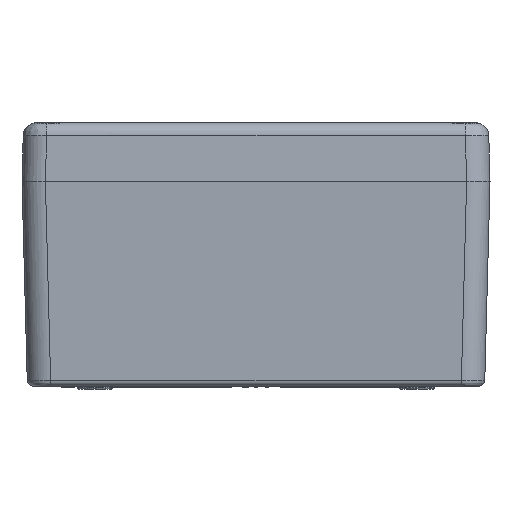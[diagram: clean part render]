
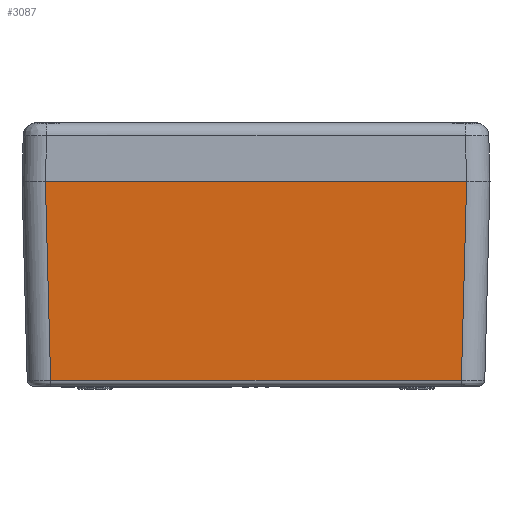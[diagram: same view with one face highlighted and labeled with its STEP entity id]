
A CAD part, left-side view. The second image highlights one B-rep face of the part: STEP entity #3087.
In plain terms, the highlighted planar face has unit normal (-1, 0, -0.026).
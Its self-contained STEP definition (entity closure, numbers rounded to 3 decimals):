
#3087=ADVANCED_FACE('',(#4880),#4089,.T.);
#4089=PLANE('',#21128);
#4880=FACE_OUTER_BOUND('',#5966,.T.);
#5966=EDGE_LOOP('',(#9414,#9415,#9416,#9417));
#9414=ORIENTED_EDGE('',*,*,#15739,.T.);
#9415=ORIENTED_EDGE('',*,*,#16085,.T.);
#9416=ORIENTED_EDGE('',*,*,#15935,.F.);
#9417=ORIENTED_EDGE('',*,*,#16087,.F.);
#13467=VERTEX_POINT('',#33333);
#13468=VERTEX_POINT('',#33335);
#13591=VERTEX_POINT('',#35861);
#13592=VERTEX_POINT('',#35863);
#15739=EDGE_CURVE('',#13468,#13467,#18371,.T.);
#15935=EDGE_CURVE('',#13591,#13592,#18446,.T.);
#16085=EDGE_CURVE('',#13467,#13592,#18511,.T.);
#16087=EDGE_CURVE('',#13468,#13591,#18513,.T.);
#18371=LINE('',#33334,#19927);
#18446=LINE('',#35862,#20002);
#18511=LINE('',#38033,#20067);
#18513=LINE('',#38036,#20069);
#19927=VECTOR('',#23656,1.);
#20002=VECTOR('',#23875,1.);
#20067=VECTOR('',#24044,1.);
#20069=VECTOR('',#24048,1.);
#21128=AXIS2_PLACEMENT_3D('',#38037,#24049,#24050);
#23656=DIRECTION('',(0.026,-0.026,-0.999));
#23875=DIRECTION('',(0.026,0.026,-0.999));
#24044=DIRECTION('',(0.,-1.,0.));
#24048=DIRECTION('',(0.,-1.,0.));
#24049=DIRECTION('',(-1.,0.,-0.026));
#24050=DIRECTION('',(0.,-1.,0.));
#33333=CARTESIAN_POINT('',(-278.218,70.221,-68.052));
#33334=CARTESIAN_POINT('',(-280.,72.003,0.));
#33335=CARTESIAN_POINT('',(-280.,72.003,0.));
#35861=CARTESIAN_POINT('',(-280.,-72.003,0.));
#35862=CARTESIAN_POINT('',(-280.,-72.003,0.));
#35863=CARTESIAN_POINT('',(-278.218,-70.221,-68.052));
#38033=CARTESIAN_POINT('',(-278.218,70.221,-68.052));
#38036=CARTESIAN_POINT('',(-280.,72.003,0.));
#38037=CARTESIAN_POINT('',(-280.,-72.003,0.));
